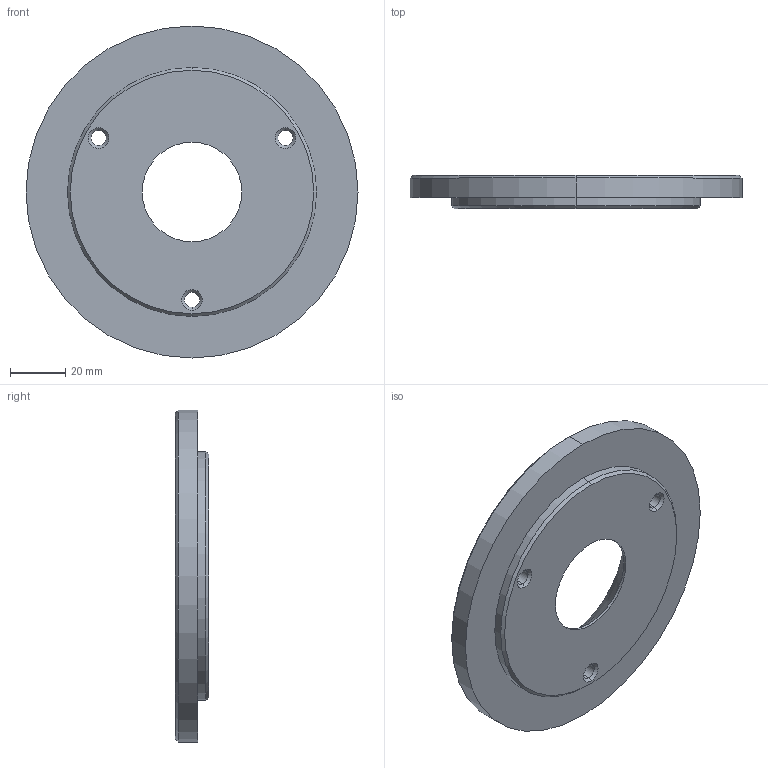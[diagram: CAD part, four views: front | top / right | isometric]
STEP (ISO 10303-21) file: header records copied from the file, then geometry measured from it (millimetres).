
FILE_DESCRIPTION (( 'STEP AP214' ), '1' );
FILE_NAME ('BR1000-120x12.STEP', '2020-02-05T12:21:32', ( 'August' ), ( '' ), 'SwSTEP 2.0', 'SolidWorks 2018', '' );
FILE_SCHEMA (( 'AUTOMOTIVE_DESIGN' ));
Length unit declared in the file: millimetre
Products named in the file (1): BR1000-120x12
Bounding box: 120 x 12 x 120 mm (x, y, z)
Volume: 93436.5 mm3; surface area: 25739.2 mm2
Topology: 1 solids, 1 shells, 42 faces, 90 edges, 54 vertices
Faces by surface type: cone 18, cylinder 18, plane 6
Entity records: 1194 total; most frequent: DIRECTION 230, CARTESIAN_POINT 187, ORIENTED_EDGE 180, AXIS2_PLACEMENT_3D 97, EDGE_CURVE 90, CIRCLE 54, EDGE_LOOP 54, VERTEX_POINT 54
